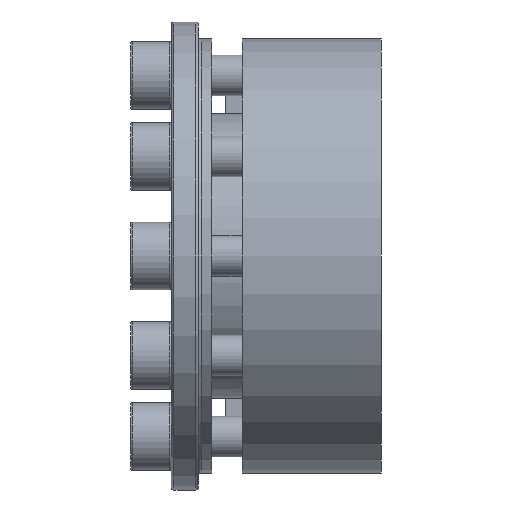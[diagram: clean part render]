
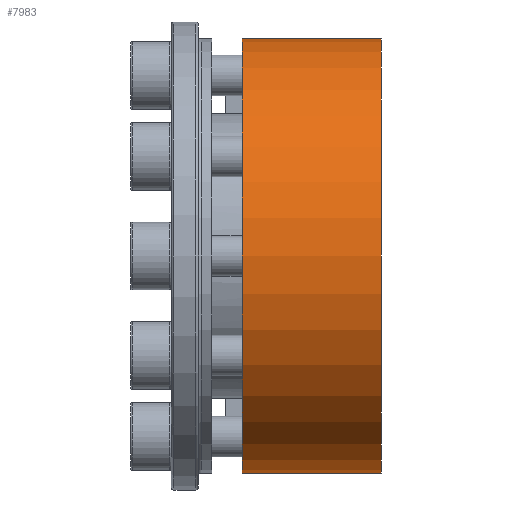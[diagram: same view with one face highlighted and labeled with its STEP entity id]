
A CAD part, front view. The second image highlights one B-rep face of the part: STEP entity #7983.
In plain terms, the highlighted cylindrical face has radius 32 mm (diameter 64 mm), a partial arc.
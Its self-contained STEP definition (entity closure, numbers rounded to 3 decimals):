
#222 = CIRCLE ( 'NONE', #4898, 32. ) ;
#986 = LINE ( 'NONE', #2894, #4441 ) ;
#1345 = VERTEX_POINT ( 'NONE', #1670 ) ;
#1670 = CARTESIAN_POINT ( 'NONE',  ( -5., 0., 32. ) ) ;
#1764 = FACE_OUTER_BOUND ( 'NONE', #5554, .T. ) ;
#2002 = ORIENTED_EDGE ( 'NONE', *, *, #7420, .T. ) ;
#2153 = ORIENTED_EDGE ( 'NONE', *, *, #3178, .F. ) ;
#2157 = VERTEX_POINT ( 'NONE', #8536 ) ;
#2310 = DIRECTION ( 'NONE',  ( 0., 0., 1. ) ) ;
#2507 = ORIENTED_EDGE ( 'NONE', *, *, #4026, .F. ) ;
#2610 = DIRECTION ( 'NONE',  ( -1., 0., 0. ) ) ;
#2894 = CARTESIAN_POINT ( 'NONE',  ( -15.5, 0., 32. ) ) ;
#3178 = EDGE_CURVE ( 'NONE', #2157, #1345, #5869, .T. ) ;
#3334 = DIRECTION ( 'NONE',  ( 0., 0., 1. ) ) ;
#3351 = CARTESIAN_POINT ( 'NONE',  ( -15.5, 0., -32. ) ) ;
#4026 = EDGE_CURVE ( 'NONE', #4186, #2157, #5720, .T. ) ;
#4150 = VERTEX_POINT ( 'NONE', #7163 ) ;
#4186 = VERTEX_POINT ( 'NONE', #8761 ) ;
#4190 = DIRECTION ( 'NONE',  ( 0., 0., 1. ) ) ;
#4441 = VECTOR ( 'NONE', #5827, 1000. ) ;
#4777 = AXIS2_PLACEMENT_3D ( 'NONE', #5538, #2610, #3334 ) ;
#4898 = AXIS2_PLACEMENT_3D ( 'NONE', #7687, #7755, #4190 ) ;
#5538 = CARTESIAN_POINT ( 'NONE',  ( -5., 0., 0. ) ) ;
#5554 = EDGE_LOOP ( 'NONE', ( #2507, #5788, #2002, #2153 ) ) ;
#5720 = LINE ( 'NONE', #3351, #7854 ) ;
#5769 = CYLINDRICAL_SURFACE ( 'NONE', #8984, 32. ) ;
#5788 = ORIENTED_EDGE ( 'NONE', *, *, #6759, .T. ) ;
#5827 = DIRECTION ( 'NONE',  ( -1., 0., 0. ) ) ;
#5869 = CIRCLE ( 'NONE', #4777, 32. ) ;
#6759 = EDGE_CURVE ( 'NONE', #4186, #4150, #222, .T. ) ;
#6982 = DIRECTION ( 'NONE',  ( -1., 0., 0. ) ) ;
#7163 = CARTESIAN_POINT ( 'NONE',  ( 15.5, 0., 32. ) ) ;
#7420 = EDGE_CURVE ( 'NONE', #4150, #1345, #986, .T. ) ;
#7687 = CARTESIAN_POINT ( 'NONE',  ( 15.5, 0., 0. ) ) ;
#7755 = DIRECTION ( 'NONE',  ( -1., 0., 0. ) ) ;
#7854 = VECTOR ( 'NONE', #6982, 1000. ) ;
#7983 = ADVANCED_FACE ( 'NONE', ( #1764 ), #5769, .T. ) ;
#8009 = DIRECTION ( 'NONE',  ( -1., 0., 0. ) ) ;
#8095 = CARTESIAN_POINT ( 'NONE',  ( -15.5, 0., 0. ) ) ;
#8536 = CARTESIAN_POINT ( 'NONE',  ( -5., 0., -32. ) ) ;
#8761 = CARTESIAN_POINT ( 'NONE',  ( 15.5, 0., -32. ) ) ;
#8984 = AXIS2_PLACEMENT_3D ( 'NONE', #8095, #8009, #2310 ) ;
